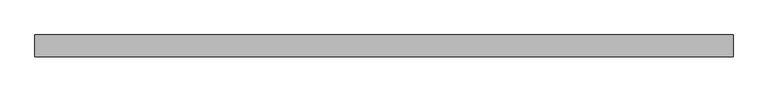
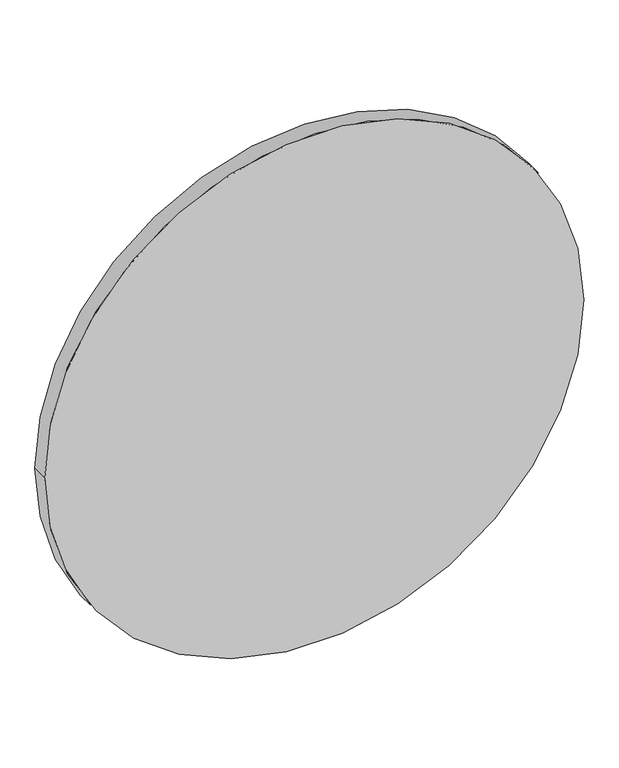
"""IFC4 building model written with IfcOpenShell, lengths in millimetres: proxy geometry, FOUNDATION^TABLE 1_ROUND-WORKSURFACE."""

from ifc_helpers import new_model, si_unit, point, frame, origin, origin_2d, place, context, project, spatial, circle_curve, trimmed, segment, composite_curve, outline, extrude, source, transform, mapped, element, save


def generic_models_ee1b57cd(model_context):
    return source(origin(), model_context, "Body", "SweptSolid", [
        extrude(outline(composite_curve([segment(trimmed(circle_curve(origin_2d(), 609.6), [point((0.0, 609.6))], [point((0.0, -609.6))], False, "CARTESIAN"), True, "CONTINUOUS"), segment(trimmed(circle_curve(origin_2d(), 609.6), [point((0.0, -609.6))], [point((0.0, 609.6))], False, "CARTESIAN"), True, "CONTINUOUS")], self_intersect=False)), frame((0.0, 0.0, 0.0), z_axis=(0.0, 1.0, 0.0), x_axis=(0.0, 0.0, 1.0)), (0.0, 0.0, 1.0), 38.1),
    ])


if __name__ == "__main__":
    model = new_model("IFC4")
    model_context = context("Model", 3, world=origin())
    ifc_project = project(units=[si_unit("LENGTHUNIT", "METRE", prefix="MILLI")], contexts=[model_context])
    site = spatial("IfcSite", under=ifc_project)
    building = spatial("IfcBuilding", under=site)
    placement = place(None, origin())
    generic_models_shape = generic_models_ee1b57cd(model_context)
    element("IfcBuildingElementProxy", 1, Name="FOUNDATION^TABLE 1_ROUND-WORKSURFACE", ObjectType="FOUNDATION^TABLE 1_ROUND-WORKSURFACE", at=placement, inside=building, context=model_context, shape_type="MappedRepresentation", body=[
        mapped(generic_models_shape, transform((0.0, 0.0, 0.0), x_axis=(1.0, 0.0, 0.0), y_axis=(0.0, 1.0, 0.0), z_axis=(0.0, 0.0, 1.0))),
    ])
    save(model, "model.ifc")
